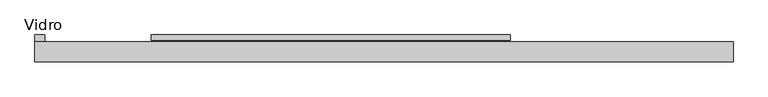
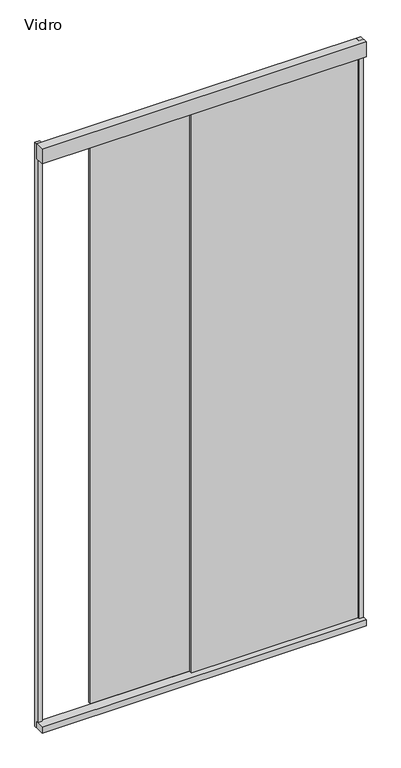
"""IFC4 building model written with IfcOpenShell, lengths in millimetres: flow terminal geometry, Porta de Correr Box Chuveiro : Vidro."""

from ifc_helpers import new_model, si_unit, frame, origin, origin_with_axes, place, context, project, spatial, polyline, outline, extrude, source, transform, mapped, element, save


def vidro_136e0591(model_context):
    return source(origin(), model_context, "Body", "SweptSolid", [
        extrude(outline(polyline([(569.7003264, -40.0), (-480.2996736, -40.0), (-480.2996736, -10.0), (569.7003264, -10.0), (569.7003264, -40.0)])), origin_with_axes(), (0.0, 0.0, 1.0), 20.0),
        extrude(outline(polyline([(569.7003264, -40.0), (-480.2996736, -40.0), (-480.2996736, -10.0), (569.7003264, -10.0), (569.7003264, -40.0)])), frame((0.0, 0.0, 1950.0), z_axis=(0.0, 0.0, 1.0), x_axis=(1.0, 0.0, 0.0)), (0.0, 0.0, 1.0), 50.0),
        extrude(outline(polyline([(-465.2996736, 0.0), (-465.2996736, -15.0), (-480.2996736, -15.0), (-480.2996736, 0.0), (-465.2996736, 0.0)])), origin_with_axes(), (0.0, 0.0, 1.0), 2000.0),
        extrude(outline(polyline([(569.7003264, -25.0), (554.7003264, -25.0), (554.7003264, -10.0), (569.7003264, -10.0), (569.7003264, -25.0)])), origin_with_axes(), (0.0, 0.0, 1.0), 2000.0),
        extrude(outline(polyline([(234.7003264, -8.0), (-305.2996736, -8.0), (-305.2996736, 0.0), (234.7003264, 0.0), (234.7003264, -8.0)])), frame((0.0, 0.0, 20.0), z_axis=(0.0, 0.0, 1.0), x_axis=(1.0, 0.0, 0.0)), (0.0, 0.0, 1.0), 1930.0),
        extrude(outline(polyline([(554.7003264, -20.0), (14.7003264, -20.0), (14.7003264, -12.0), (554.7003264, -12.0), (554.7003264, -20.0)])), frame((0.0, 0.0, 20.0), z_axis=(0.0, 0.0, 1.0), x_axis=(1.0, 0.0, 0.0)), (0.0, 0.0, 1.0), 1930.0),
    ])


if __name__ == "__main__":
    model = new_model("IFC4")
    model_context = context("Model", 3, world=origin())
    ifc_project = project(units=[si_unit("LENGTHUNIT", "METRE", prefix="MILLI")], contexts=[model_context])
    site = spatial("IfcSite", under=ifc_project)
    building = spatial("IfcBuilding", under=site)
    placement = place(None, origin())
    vidro_shape = vidro_136e0591(model_context)
    element("IfcFlowTerminal", 1, ObjectType="Porta de Correr Box Chuveiro : Vidro", at=placement, inside=building, context=model_context, shape_type="MappedRepresentation", body=[
        mapped(vidro_shape, transform((0.0, 0.0, 0.0), x_axis=(1.0, 0.0, 0.0), y_axis=(0.0, 1.0, 0.0), z_axis=(0.0, 0.0, 1.0))),
    ])
    save(model, "model.ifc")
